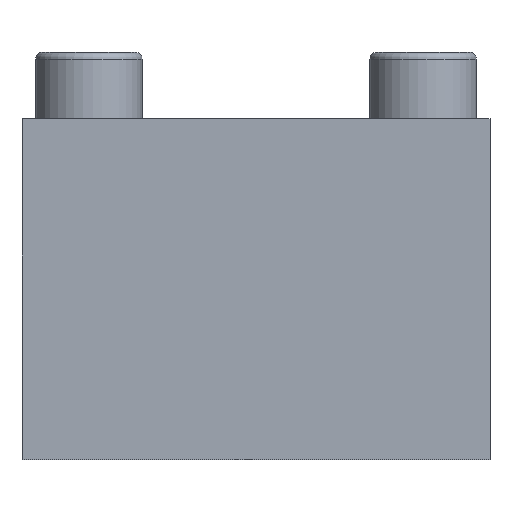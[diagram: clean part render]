
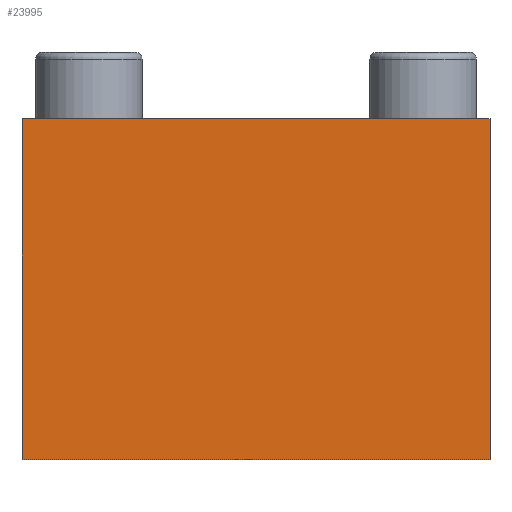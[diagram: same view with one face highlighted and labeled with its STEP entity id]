
A CAD part, front view. The second image highlights one B-rep face of the part: STEP entity #23995.
In plain terms, the highlighted planar face has unit normal (0, -1, 0).
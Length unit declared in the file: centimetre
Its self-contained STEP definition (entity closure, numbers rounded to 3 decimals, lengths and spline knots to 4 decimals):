
#1351=FACE_OUTER_BOUND('',#2741,.T.);
#2741=EDGE_LOOP('',(#15945,#15946,#15947,#15948));
#4093=LINE('',#30989,#6701);
#4761=LINE('',#33669,#7369);
#4764=LINE('',#33675,#7372);
#4765=LINE('',#33676,#7373);
#6701=VECTOR('',#26317,7.);
#7369=VECTOR('',#27033,5.1);
#7372=VECTOR('',#27038,5.1);
#7373=VECTOR('',#27039,7.);
#9309=VERTEX_POINT('',#30986);
#9310=VERTEX_POINT('',#30988);
#10258=VERTEX_POINT('',#33668);
#10260=VERTEX_POINT('',#33674);
#11591=EDGE_CURVE('',#9309,#9310,#4093,.T.);
#12540=EDGE_CURVE('',#9309,#10258,#4761,.T.);
#12543=EDGE_CURVE('',#9310,#10260,#4764,.T.);
#12544=EDGE_CURVE('',#10260,#10258,#4765,.T.);
#15945=ORIENTED_EDGE('',*,*,#12543,.F.);
#15946=ORIENTED_EDGE('',*,*,#11591,.F.);
#15947=ORIENTED_EDGE('',*,*,#12540,.T.);
#15948=ORIENTED_EDGE('',*,*,#12544,.F.);
#21792=PLANE('',#25306);
#23995=ADVANCED_FACE('',(#1351),#21792,.T.);
#25306=AXIS2_PLACEMENT_3D('',#33673,#27036,#27037);
#26317=DIRECTION('',(1.,0.,0.));
#27033=DIRECTION('',(0.,0.,-1.));
#27036=DIRECTION('center_axis',(0.,-1.,0.));
#27037=DIRECTION('ref_axis',(-1.,0.,0.));
#27038=DIRECTION('',(0.,0.,-1.));
#27039=DIRECTION('',(-1.,0.,0.));
#30986=CARTESIAN_POINT('',(-3.5,-17.5,4.1));
#30988=CARTESIAN_POINT('',(3.5,-17.5,4.1));
#30989=CARTESIAN_POINT('',(3.5,-17.5,4.1));
#33668=CARTESIAN_POINT('',(-3.5,-17.5,-1.));
#33669=CARTESIAN_POINT('',(-3.5,-17.5,0.));
#33673=CARTESIAN_POINT('Origin',(3.5,-17.5,3.1));
#33674=CARTESIAN_POINT('',(3.5,-17.5,-1.));
#33675=CARTESIAN_POINT('',(3.5,-17.5,0.));
#33676=CARTESIAN_POINT('',(3.5,-17.5,-1.));
